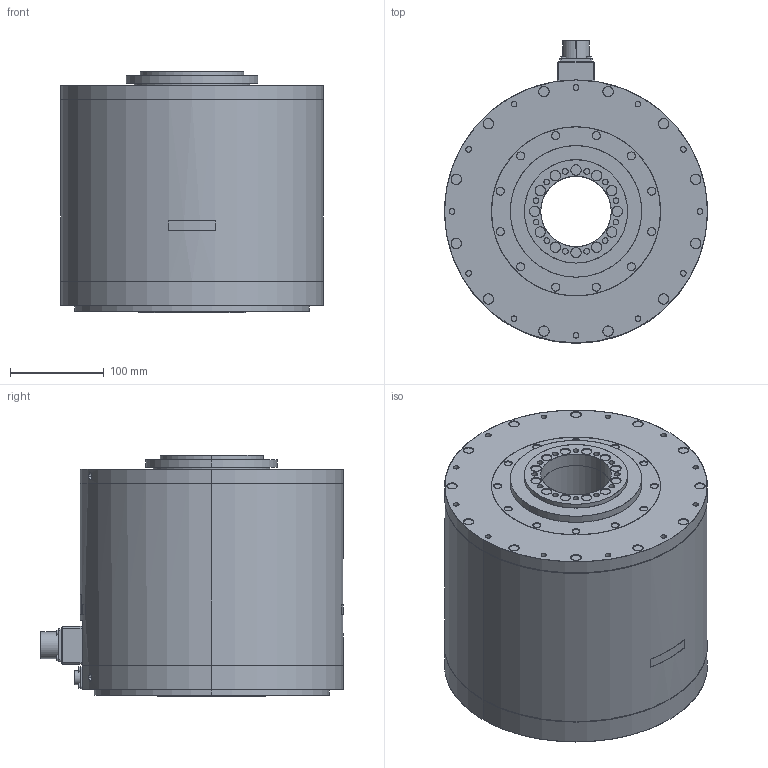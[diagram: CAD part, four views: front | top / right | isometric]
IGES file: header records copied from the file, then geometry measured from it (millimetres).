
Start section: SolidWorks IGES file using analytic representation for surfaces
Bounding box: 280 x 322.1 x 257.5 mm (x, y, z)
Surface area: 435517.4 mm2 (no closed solid volume)
Topology: 0 solids, 0 shells, 536 faces, 11928 edges, 11928 vertices
Faces by surface type: revolution 324, bspline 212
